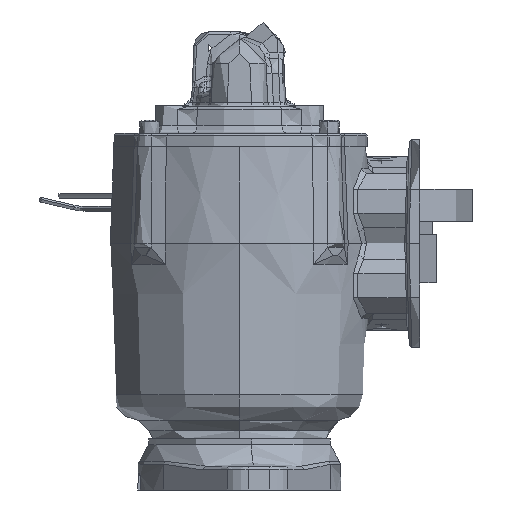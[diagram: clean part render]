
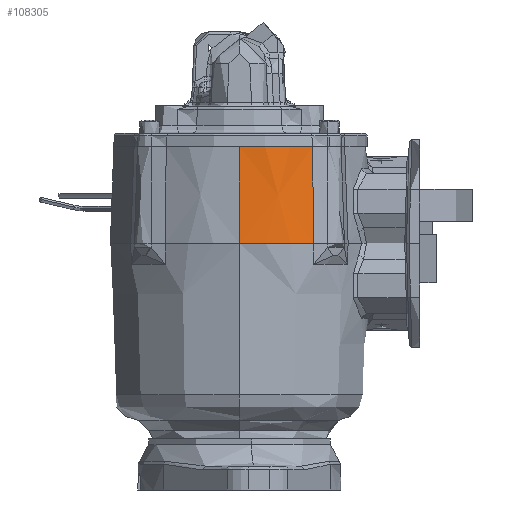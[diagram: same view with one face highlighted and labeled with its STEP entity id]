
A CAD part, left-side view. The second image highlights one B-rep face of the part: STEP entity #108305.
In plain terms, the highlighted conical face has half-angle 2 degrees and reference radius 78.232 mm.
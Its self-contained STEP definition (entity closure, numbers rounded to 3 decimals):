
#1652 = DIRECTION ( 'NONE',  ( 1., 0., 0. ) ) ;
#5585 = CARTESIAN_POINT ( 'NONE',  ( -86.793, 3.879, 66.341 ) ) ;
#9082 = DIRECTION ( 'NONE',  ( -0.035, 0., -0.999 ) ) ;
#15188 = EDGE_CURVE ( 'NONE', #103308, #131497, #132921, .T. ) ;
#16674 = VERTEX_POINT ( 'NONE', #41859 ) ;
#20405 = AXIS2_PLACEMENT_3D ( 'NONE', #106893, #37091, #118643 ) ;
#28563 = EDGE_CURVE ( 'NONE', #131497, #16674, #116276, .T. ) ;
#34162 = EDGE_CURVE ( 'NONE', #103308, #45723, #60957, .T. ) ;
#37091 = DIRECTION ( 'NONE',  ( 0., 0., -1. ) ) ;
#38110 = CARTESIAN_POINT ( 'NONE',  ( -102.43, 47.375, 8.822 ) ) ;
#41859 = CARTESIAN_POINT ( 'NONE',  ( -100.421, 47.375, 66.341 ) ) ;
#45723 = VERTEX_POINT ( 'NONE', #38110 ) ;
#55196 = EDGE_CURVE ( 'NONE', #16674, #45723, #58120, .T. ) ;
#58120 = LINE ( 'NONE', #90168, #78197 ) ;
#60957 = CIRCLE ( 'NONE', #80287, 78.232 ) ;
#63845 = FACE_OUTER_BOUND ( 'NONE', #143638, .T. ) ;
#65540 = CARTESIAN_POINT ( 'NONE',  ( -86.793, 3.879, 66.341 ) ) ;
#67667 = CARTESIAN_POINT ( 'NONE',  ( -88.813, 3.271, 8.822 ) ) ;
#71556 = DIRECTION ( 'NONE',  ( 0., 0., -1. ) ) ;
#78197 = VECTOR ( 'NONE', #9082, 1000. ) ;
#80287 = AXIS2_PLACEMENT_3D ( 'NONE', #141355, #71556, #1652 ) ;
#90168 = CARTESIAN_POINT ( 'NONE',  ( -102.43, 47.375, 8.822 ) ) ;
#91117 = CONICAL_SURFACE ( 'NONE', #127498, 78.232, 0.035 ) ;
#97507 = CARTESIAN_POINT ( 'NONE',  ( -24.198, 47.375, 8.822 ) ) ;
#102041 = ORIENTED_EDGE ( 'NONE', *, *, #15188, .T. ) ;
#103308 = VERTEX_POINT ( 'NONE', #67667 ) ;
#103480 = ORIENTED_EDGE ( 'NONE', *, *, #28563, .T. ) ;
#106893 = CARTESIAN_POINT ( 'NONE',  ( -24.198, 47.375, 66.341 ) ) ;
#107046 = ORIENTED_EDGE ( 'NONE', *, *, #55196, .T. ) ;
#108305 = ADVANCED_FACE ( 'NONE', ( #63845 ), #91117, .T. ) ;
#116276 = CIRCLE ( 'NONE', #20405, 76.223 ) ;
#118643 = DIRECTION ( 'NONE',  ( -1., 0., 0. ) ) ;
#120968 = DIRECTION ( 'NONE',  ( 0., 0., -1. ) ) ;
#123109 = CARTESIAN_POINT ( 'NONE',  ( -87.448, 3.685, 47.76 ) ) ;
#123602 = CARTESIAN_POINT ( 'NONE',  ( -88.122, 3.483, 28.587 ) ) ;
#127498 = AXIS2_PLACEMENT_3D ( 'NONE', #97507, #120968, #144438 ) ;
#128823 = ORIENTED_EDGE ( 'NONE', *, *, #34162, .F. ) ;
#131497 = VERTEX_POINT ( 'NONE', #5585 ) ;
#132921 = B_SPLINE_CURVE_WITH_KNOTS ( 'NONE', 3,
 ( #135313, #123602, #123109, #65540 ),
 .UNSPECIFIED., .F., .F.,
 ( 4, 4 ),
 ( 0., 1. ),
 .UNSPECIFIED. ) ;
#135313 = CARTESIAN_POINT ( 'NONE',  ( -88.813, 3.271, 8.822 ) ) ;
#141355 = CARTESIAN_POINT ( 'NONE',  ( -24.198, 47.375, 8.822 ) ) ;
#143638 = EDGE_LOOP ( 'NONE', ( #103480, #107046, #128823, #102041 ) ) ;
#144438 = DIRECTION ( 'NONE',  ( -1., 0., 0. ) ) ;
